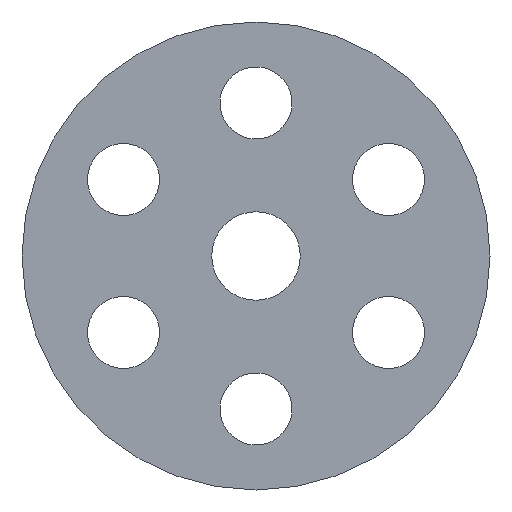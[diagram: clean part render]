
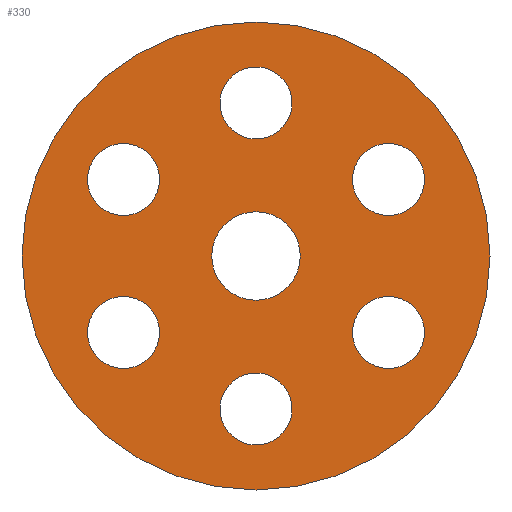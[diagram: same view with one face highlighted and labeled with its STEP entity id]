
A CAD part, front view. The second image highlights one B-rep face of the part: STEP entity #330.
In plain terms, the highlighted planar face has unit normal (0, -1, 0).
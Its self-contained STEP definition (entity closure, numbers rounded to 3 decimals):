
#61=CARTESIAN_POINT('Vertex',(-32.601,0.,-143.584)) ;
#66=CARTESIAN_POINT('Axis2P3D Location',(-30.846,0.,-142.626)) ;
#70=CARTESIAN_POINT('Vertex',(-29.09,0.,-141.667)) ;
#92=CARTESIAN_POINT('Axis2P3D Location',(-30.846,0.,-142.626)) ;
#118=CARTESIAN_POINT('Vertex',(-43.846,0.,-134.126)) ;
#123=CARTESIAN_POINT('Axis2P3D Location',(-30.846,0.,-134.126)) ;
#127=CARTESIAN_POINT('Vertex',(-17.846,0.,-134.126)) ;
#149=CARTESIAN_POINT('Axis2P3D Location',(-30.846,0.,-134.126)) ;
#175=CARTESIAN_POINT('Vertex',(-33.003,0.,-135.304)) ;
#180=CARTESIAN_POINT('Axis2P3D Location',(-30.846,0.,-134.126)) ;
#184=CARTESIAN_POINT('Vertex',(-28.688,0.,-132.947)) ;
#206=CARTESIAN_POINT('Axis2P3D Location',(-30.846,0.,-134.126)) ;
#223=CARTESIAN_POINT('Axis2P3D Location',(0.,0.,0.)) ;
#232=CARTESIAN_POINT('Axis2P3D Location',(-23.484,0.,-138.376)) ;
#236=CARTESIAN_POINT('Vertex',(-23.532,0.,-140.375)) ;
#238=CARTESIAN_POINT('Vertex',(-23.437,0.,-136.376)) ;
#241=CARTESIAN_POINT('Axis2P3D Location',(-23.484,0.,-138.376)) ;
#258=CARTESIAN_POINT('Axis2P3D Location',(-23.484,0.,-129.876)) ;
#262=CARTESIAN_POINT('Vertex',(-21.776,0.,-130.916)) ;
#264=CARTESIAN_POINT('Vertex',(-25.192,0.,-128.835)) ;
#267=CARTESIAN_POINT('Axis2P3D Location',(-23.484,0.,-129.876)) ;
#276=CARTESIAN_POINT('Axis2P3D Location',(-30.846,0.,-125.626)) ;
#280=CARTESIAN_POINT('Vertex',(-29.09,0.,-124.667)) ;
#282=CARTESIAN_POINT('Vertex',(-32.601,0.,-126.584)) ;
#285=CARTESIAN_POINT('Axis2P3D Location',(-30.846,0.,-125.626)) ;
#294=CARTESIAN_POINT('Axis2P3D Location',(-38.207,0.,-129.876)) ;
#298=CARTESIAN_POINT('Vertex',(-38.16,0.,-127.876)) ;
#300=CARTESIAN_POINT('Vertex',(-38.254,0.,-131.875)) ;
#303=CARTESIAN_POINT('Axis2P3D Location',(-38.207,0.,-129.876)) ;
#312=CARTESIAN_POINT('Axis2P3D Location',(-38.207,0.,-138.376)) ;
#316=CARTESIAN_POINT('Vertex',(-39.915,0.,-137.335)) ;
#318=CARTESIAN_POINT('Vertex',(-36.499,0.,-139.416)) ;
#321=CARTESIAN_POINT('Axis2P3D Location',(-38.207,0.,-138.376)) ;
#67=DIRECTION('Axis2P3D Direction',(0.,-1.,-0.)) ;
#93=DIRECTION('Axis2P3D Direction',(0.,-1.,-0.)) ;
#124=DIRECTION('Axis2P3D Direction',(0.,1.,-0.)) ;
#150=DIRECTION('Axis2P3D Direction',(0.,1.,-0.)) ;
#181=DIRECTION('Axis2P3D Direction',(0.,-1.,-0.)) ;
#207=DIRECTION('Axis2P3D Direction',(0.,-1.,-0.)) ;
#224=DIRECTION('Axis2P3D Direction',(0.,1.,-0.)) ;
#225=DIRECTION('Axis2P3D XDirection',(-1.,0.,0.)) ;
#233=DIRECTION('Axis2P3D Direction',(0.,1.,-0.)) ;
#242=DIRECTION('Axis2P3D Direction',(0.,1.,-0.)) ;
#259=DIRECTION('Axis2P3D Direction',(0.,1.,-0.)) ;
#268=DIRECTION('Axis2P3D Direction',(0.,1.,-0.)) ;
#277=DIRECTION('Axis2P3D Direction',(0.,1.,-0.)) ;
#286=DIRECTION('Axis2P3D Direction',(0.,1.,-0.)) ;
#295=DIRECTION('Axis2P3D Direction',(0.,1.,-0.)) ;
#304=DIRECTION('Axis2P3D Direction',(0.,1.,-0.)) ;
#313=DIRECTION('Axis2P3D Direction',(0.,1.,-0.)) ;
#322=DIRECTION('Axis2P3D Direction',(0.,1.,-0.)) ;
#68=AXIS2_PLACEMENT_3D('Circle Axis2P3D',#66,#67,$) ;
#94=AXIS2_PLACEMENT_3D('Circle Axis2P3D',#92,#93,$) ;
#125=AXIS2_PLACEMENT_3D('Circle Axis2P3D',#123,#124,$) ;
#151=AXIS2_PLACEMENT_3D('Circle Axis2P3D',#149,#150,$) ;
#182=AXIS2_PLACEMENT_3D('Circle Axis2P3D',#180,#181,$) ;
#208=AXIS2_PLACEMENT_3D('Circle Axis2P3D',#206,#207,$) ;
#226=AXIS2_PLACEMENT_3D('Plane Axis2P3D',#223,#224,#225) ;
#234=AXIS2_PLACEMENT_3D('Circle Axis2P3D',#232,#233,$) ;
#243=AXIS2_PLACEMENT_3D('Circle Axis2P3D',#241,#242,$) ;
#260=AXIS2_PLACEMENT_3D('Circle Axis2P3D',#258,#259,$) ;
#269=AXIS2_PLACEMENT_3D('Circle Axis2P3D',#267,#268,$) ;
#278=AXIS2_PLACEMENT_3D('Circle Axis2P3D',#276,#277,$) ;
#287=AXIS2_PLACEMENT_3D('Circle Axis2P3D',#285,#286,$) ;
#296=AXIS2_PLACEMENT_3D('Circle Axis2P3D',#294,#295,$) ;
#305=AXIS2_PLACEMENT_3D('Circle Axis2P3D',#303,#304,$) ;
#314=AXIS2_PLACEMENT_3D('Circle Axis2P3D',#312,#313,$) ;
#323=AXIS2_PLACEMENT_3D('Circle Axis2P3D',#321,#322,$) ;
#229=ORIENTED_EDGE('',*,*,#153,.F.) ;
#230=ORIENTED_EDGE('',*,*,#129,.F.) ;
#247=ORIENTED_EDGE('',*,*,#240,.T.) ;
#248=ORIENTED_EDGE('',*,*,#245,.T.) ;
#251=ORIENTED_EDGE('',*,*,#72,.T.) ;
#252=ORIENTED_EDGE('',*,*,#96,.T.) ;
#255=ORIENTED_EDGE('',*,*,#186,.T.) ;
#256=ORIENTED_EDGE('',*,*,#210,.T.) ;
#273=ORIENTED_EDGE('',*,*,#266,.T.) ;
#274=ORIENTED_EDGE('',*,*,#271,.T.) ;
#291=ORIENTED_EDGE('',*,*,#284,.T.) ;
#292=ORIENTED_EDGE('',*,*,#289,.T.) ;
#309=ORIENTED_EDGE('',*,*,#302,.T.) ;
#310=ORIENTED_EDGE('',*,*,#307,.T.) ;
#327=ORIENTED_EDGE('',*,*,#320,.T.) ;
#328=ORIENTED_EDGE('',*,*,#325,.T.) ;
#249=FACE_BOUND('',#246,.T.) ;
#253=FACE_BOUND('',#250,.T.) ;
#257=FACE_BOUND('',#254,.T.) ;
#275=FACE_BOUND('',#272,.T.) ;
#293=FACE_BOUND('',#290,.T.) ;
#311=FACE_BOUND('',#308,.T.) ;
#329=FACE_BOUND('',#326,.T.) ;
#330=ADVANCED_FACE('Corps principal',(#231,#249,#253,#257,#275,#293,#311,#329),#227,.F.) ;
#69=CIRCLE('generated circle',#68,2.) ;
#95=CIRCLE('generated circle',#94,2.) ;
#126=CIRCLE('generated circle',#125,13.) ;
#152=CIRCLE('generated circle',#151,13.) ;
#183=CIRCLE('generated circle',#182,2.459) ;
#209=CIRCLE('generated circle',#208,2.459) ;
#235=CIRCLE('generated circle',#234,2.) ;
#244=CIRCLE('generated circle',#243,2.) ;
#261=CIRCLE('generated circle',#260,2.) ;
#270=CIRCLE('generated circle',#269,2.) ;
#279=CIRCLE('generated circle',#278,2.) ;
#288=CIRCLE('generated circle',#287,2.) ;
#297=CIRCLE('generated circle',#296,2.) ;
#306=CIRCLE('generated circle',#305,2.) ;
#315=CIRCLE('generated circle',#314,2.) ;
#324=CIRCLE('generated circle',#323,2.) ;
#72=EDGE_CURVE('',#71,#62,#69,.F.) ;
#96=EDGE_CURVE('',#62,#71,#95,.F.) ;
#129=EDGE_CURVE('',#119,#128,#126,.T.) ;
#153=EDGE_CURVE('',#128,#119,#152,.T.) ;
#186=EDGE_CURVE('',#185,#176,#183,.F.) ;
#210=EDGE_CURVE('',#176,#185,#209,.F.) ;
#240=EDGE_CURVE('',#237,#239,#235,.T.) ;
#245=EDGE_CURVE('',#239,#237,#244,.T.) ;
#266=EDGE_CURVE('',#263,#265,#261,.T.) ;
#271=EDGE_CURVE('',#265,#263,#270,.T.) ;
#284=EDGE_CURVE('',#281,#283,#279,.T.) ;
#289=EDGE_CURVE('',#283,#281,#288,.T.) ;
#302=EDGE_CURVE('',#299,#301,#297,.T.) ;
#307=EDGE_CURVE('',#301,#299,#306,.T.) ;
#320=EDGE_CURVE('',#317,#319,#315,.T.) ;
#325=EDGE_CURVE('',#319,#317,#324,.T.) ;
#228=EDGE_LOOP('',(#229,#230)) ;
#246=EDGE_LOOP('',(#247,#248)) ;
#250=EDGE_LOOP('',(#251,#252)) ;
#254=EDGE_LOOP('',(#255,#256)) ;
#272=EDGE_LOOP('',(#273,#274)) ;
#290=EDGE_LOOP('',(#291,#292)) ;
#308=EDGE_LOOP('',(#309,#310)) ;
#326=EDGE_LOOP('',(#327,#328)) ;
#231=FACE_OUTER_BOUND('',#228,.T.) ;
#227=PLANE('Plane',#226) ;
#62=VERTEX_POINT('',#61) ;
#71=VERTEX_POINT('',#70) ;
#119=VERTEX_POINT('',#118) ;
#128=VERTEX_POINT('',#127) ;
#176=VERTEX_POINT('',#175) ;
#185=VERTEX_POINT('',#184) ;
#237=VERTEX_POINT('',#236) ;
#239=VERTEX_POINT('',#238) ;
#263=VERTEX_POINT('',#262) ;
#265=VERTEX_POINT('',#264) ;
#281=VERTEX_POINT('',#280) ;
#283=VERTEX_POINT('',#282) ;
#299=VERTEX_POINT('',#298) ;
#301=VERTEX_POINT('',#300) ;
#317=VERTEX_POINT('',#316) ;
#319=VERTEX_POINT('',#318) ;
